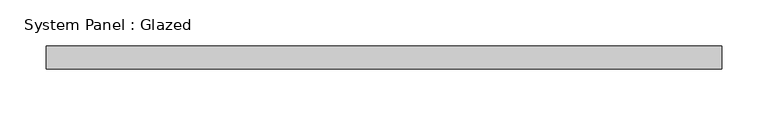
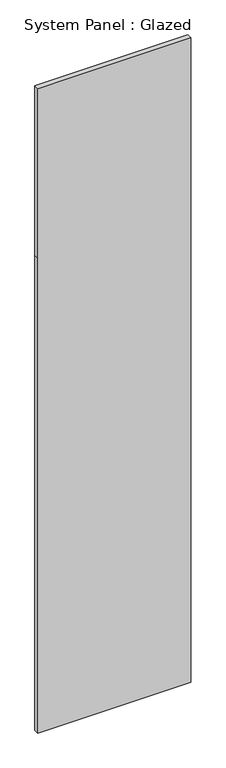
"""IFC4 building model written with IfcOpenShell, lengths in millimetres: plate geometry, System Panel : Glazed."""

import ifcopenshell
import ifcopenshell.guid

model = None  # the IFC model being written
_history = None  # IfcOwnerHistory: only IFC2X3 demands one
_inside = {}  # id of a spatial element -> (the spatial element, [elements in it])
_under = {}  # id of a project, library or spatial element -> (it, [spatial elements below it])
_declared = {}  # id of a project -> (the project, [libraries it declares])
_typed = {}  # id of a type object -> (the type object, [elements of that type])
_made_of = {}  # id of a material, layer set ... -> (it, [elements and type objects made of it])


def new_model(schema):
    """Start an empty IFC model of exactly this schema.

    Asked for "IFC4X3", IfcOpenShell would pick the latest addendum, in which some entities
    have other attributes; the version numbers below select the first issue.
    IFC2X3 requires an IfcOwnerHistory on every rooted entity: one is made here for all.
    """
    global model, _history
    if schema == "IFC4X3":
        model = ifcopenshell.file(schema_version=(4, 3, 0, 0))
    else:
        model = ifcopenshell.file(schema=schema)
    _inside.clear()
    _under.clear()
    _declared.clear()
    _typed.clear()
    _made_of.clear()
    _history = None
    if model.schema == "IFC2X3":
        org = make("IfcOrganization", Name="unknown")
        user = make(
            "IfcPersonAndOrganization",
            ThePerson=make("IfcPerson", FamilyName="unknown"),
            TheOrganization=org,
        )
        app = make(
            "IfcApplication",
            ApplicationDeveloper=org,
            Version="unknown",
            ApplicationFullName="unknown",
            ApplicationIdentifier="unknown",
        )
        _history = make(
            "IfcOwnerHistory",
            OwningUser=user,
            OwningApplication=app,
            ChangeAction="ADDED",
            CreationDate=0,
        )
    return model


def make(cls, **values):
    """One entity of the class cls with the attributes given. An attribute that is None is left unset."""
    return model.create_entity(
        cls, **{name: value for name, value in values.items() if value is not None}
    )


def rooted(cls, **values):
    """An entity with a GlobalId (a new one), such as an element, a storey or a relation."""
    return make(cls, GlobalId=ifcopenshell.guid.new(), OwnerHistory=_history, **values)


def si_unit(unit_type, name, prefix=None):
    """IfcSIUnit, for example si_unit("LENGTHUNIT", "METRE", prefix="MILLI")."""
    return make("IfcSIUnit", UnitType=unit_type, Prefix=prefix, Name=name)


def assignment(units):
    """IfcUnitAssignment: the units of a project."""
    return None if units is None else make("IfcUnitAssignment", Units=units)


def point(xyz):
    """IfcCartesianPoint."""
    return None if xyz is None else make("IfcCartesianPoint", Coordinates=xyz)


def direction(xyz):
    """IfcDirection."""
    return None if xyz is None else make("IfcDirection", DirectionRatios=xyz)


def frame(location, z_axis=None, x_axis=None):
    """IfcAxis2Placement3D, a coordinate frame: its origin and axes. An axis left out is left unset."""
    return make(
        "IfcAxis2Placement3D",
        Location=point(location),
        Axis=direction(z_axis),
        RefDirection=direction(x_axis),
    )


def origin():
    """The frame at (0, 0, 0) with its axes left unset."""
    return frame((0.0, 0.0, 0.0))


def place(relative_to, where):
    """IfcLocalPlacement: puts the frame where relative to a parent placement (None: the world)."""
    return make(
        "IfcLocalPlacement", PlacementRelTo=relative_to, RelativePlacement=where
    )


def context(
    kind, dimensions, precision=None, world=None, true_north=None, identifier=None
):
    """IfcGeometricRepresentationContext, for example the 3D "Model" context."""
    return make(
        "IfcGeometricRepresentationContext",
        ContextIdentifier=identifier,
        ContextType=kind,
        CoordinateSpaceDimension=dimensions,
        Precision=precision,
        WorldCoordinateSystem=world,
        TrueNorth=true_north,
    )


def project(units=None, contexts=None):
    """IfcProject with its units and contexts."""
    return rooted(
        "IfcProject",
        Name="project",
        RepresentationContexts=contexts,
        UnitsInContext=assignment(units),
    )


def spatial(cls, under=None, at=None, **own):
    """A site, building, storey or space (cls), placed at a placement, below another one or the project."""
    s = rooted(cls, ObjectPlacement=at, **own)
    if under is not None:
        _under.setdefault(under.id(), (under, []))[1].append(s)
    return s


def polyline(points):
    """IfcPolyline through the points."""
    return make("IfcPolyline", Points=[point(p) for p in points])


def outline(outer, holes=None, kind="AREA"):
    """IfcArbitraryClosedProfileDef: a profile drawn as a closed curve; with holes, ...WithVoids."""
    if holes is None:
        return make("IfcArbitraryClosedProfileDef", ProfileType=kind, OuterCurve=outer)
    return make(
        "IfcArbitraryProfileDefWithVoids",
        ProfileType=kind,
        OuterCurve=outer,
        InnerCurves=holes,
    )


def extrude(swept, where, along, depth):
    """IfcExtrudedAreaSolid: the profile swept, set in the frame where, extruded along a direction by depth."""
    return make(
        "IfcExtrudedAreaSolid",
        SweptArea=swept,
        Position=where,
        ExtrudedDirection=direction(along),
        Depth=depth,
    )


def shape(context_of_items, identifier, shape_type, items):
    """IfcShapeRepresentation: the items that make up one representation, for example the "Body"."""
    return make(
        "IfcShapeRepresentation",
        ContextOfItems=context_of_items,
        RepresentationIdentifier=identifier,
        RepresentationType=shape_type,
        Items=items,
    )


def source(mapping_origin, context_of_items, identifier, shape_type, items):
    """IfcRepresentationMap: a shape defined once, which mapped items show again and again."""
    return make(
        "IfcRepresentationMap",
        MappingOrigin=mapping_origin,
        MappedRepresentation=shape(context_of_items, identifier, shape_type, items),
    )


def transform(
    local_origin,
    x_axis=None,
    y_axis=None,
    z_axis=None,
    scale=None,
    scale2=None,
    scale3=None,
    uniform=True,
):
    """IfcCartesianTransformationOperator3D, or its non-uniform kind. x_axis, y_axis, z_axis: its Axis1, 2, 3."""
    if uniform:
        return make(
            "IfcCartesianTransformationOperator3D",
            Axis1=direction(x_axis),
            Axis2=direction(y_axis),
            LocalOrigin=point(local_origin),
            Scale=scale,
            Axis3=direction(z_axis),
        )
    return make(
        "IfcCartesianTransformationOperator3DnonUniform",
        Axis1=direction(x_axis),
        Axis2=direction(y_axis),
        LocalOrigin=point(local_origin),
        Scale=scale,
        Axis3=direction(z_axis),
        Scale2=scale2,
        Scale3=scale3,
    )


def mapped(mapping_source, mapping_target):
    """IfcMappedItem: shows the shape of a source again, moved by a transform."""
    return make(
        "IfcMappedItem", MappingSource=mapping_source, MappingTarget=mapping_target
    )


def made_of(thing, what):
    """Note that an element or type object is made of a material, layer set ...; save() writes the relation."""
    if what is not None:
        _made_of.setdefault(what.id(), (what, []))[1].append(thing)
    return thing


def element(
    cls,
    number,
    at=None,
    inside=None,
    cuts=None,
    type_object=None,
    material=None,
    context=None,
    identifier="Body",
    shape_type=None,
    held_by="IfcProductDefinitionShape",
    body=None,
    shapes=None,
    **own,
):
    """One element of the class cls, such as IfcWall. Its Tag is "e" and its number.

    at: its placement. inside: the storey or other place that contains it. cuts: it is an
    opening in that element (IfcRelVoidsElement). A single representation is given by context,
    identifier, shape_type and body (its items); several are given by shapes. held_by: the class
    of the entity that holds the representations. save() writes the other relations.
    """
    e = rooted(cls, Tag="e%d" % number, ObjectPlacement=at, **own)
    if body is not None:
        shapes = [shape(context, identifier, shape_type, body)]
    if shapes is not None:
        e.Representation = make(held_by, Representations=shapes)
    if inside is not None:
        _inside.setdefault(inside.id(), (inside, []))[1].append(e)
    if cuts is not None:
        rooted(
            "IfcRelVoidsElement", RelatingBuildingElement=cuts, RelatedOpeningElement=e
        )
    if type_object is not None:
        _typed.setdefault(type_object.id(), (type_object, []))[1].append(e)
    return made_of(e, material)


def aggregate(whole, parts):
    """IfcRelAggregates: a whole, such as a stair, and the parts it consists of."""
    return rooted("IfcRelAggregates", RelatingObject=whole, RelatedObjects=parts)


def save(model, path):
    """Write the relations noted so far, then the file.

    IfcRelAggregates (storeys below a building ...), IfcRelContainedInSpatialStructure (elements
    in a storey), IfcRelDefinesByType, IfcRelAssociatesMaterial and IfcRelDeclares: one each for
    every whole, place, type object, material and project.
    """
    for whole, parts in _under.values():
        aggregate(whole, parts)
    for where, things in _inside.values():
        rooted(
            "IfcRelContainedInSpatialStructure",
            RelatedElements=things,
            RelatingStructure=where,
        )
    for kind, things in _typed.values():
        rooted("IfcRelDefinesByType", RelatedObjects=things, RelatingType=kind)
    for what, things in _made_of.values():
        rooted("IfcRelAssociatesMaterial", RelatedObjects=things, RelatingMaterial=what)
    for by, libraries in _declared.values():
        rooted("IfcRelDeclares", RelatingContext=by, RelatedDefinitions=libraries)
    model.write(path)


def system_panel_glazed_d7af4334(model_context):
    return source(origin(), model_context, "Body", "SweptSolid", [
        extrude(outline(polyline([(0.0, -365.0000002), (0.0, 365.0000002), (2395.0, 365.0000002), (3250.0, 365.0000002), (3250.0, -365.0000002), (2395.0, -365.0000002), (0.0, -365.0000002)])), frame((0.0, 24.5, 0.0), z_axis=(0.0, 1.0, 0.0), x_axis=(0.0, 0.0, 1.0)), (0.0, 0.0, 1.0), 25.0),
    ])


if __name__ == "__main__":
    model = new_model("IFC4")
    model_context = context("Model", 3, world=origin())
    ifc_project = project(units=[si_unit("LENGTHUNIT", "METRE", prefix="MILLI")], contexts=[model_context])
    site = spatial("IfcSite", under=ifc_project)
    building = spatial("IfcBuilding", under=site)
    placement = place(None, origin())
    system_panel_glazed_shape = system_panel_glazed_d7af4334(model_context)
    element("IfcPlate", 1, ObjectType="System Panel : Glazed", at=placement, inside=building, context=model_context, shape_type="MappedRepresentation", body=[
        mapped(system_panel_glazed_shape, transform((0.0, 0.0, 0.0), x_axis=(1.0, 0.0, 0.0), y_axis=(0.0, 1.0, 0.0), z_axis=(0.0, 0.0, 1.0))),
    ])
    save(model, "model.ifc")
